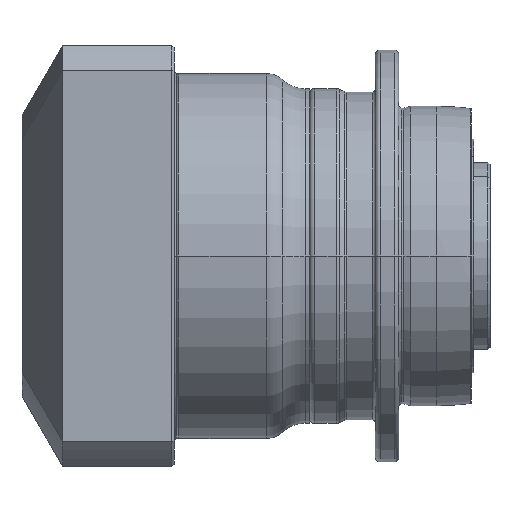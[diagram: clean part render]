
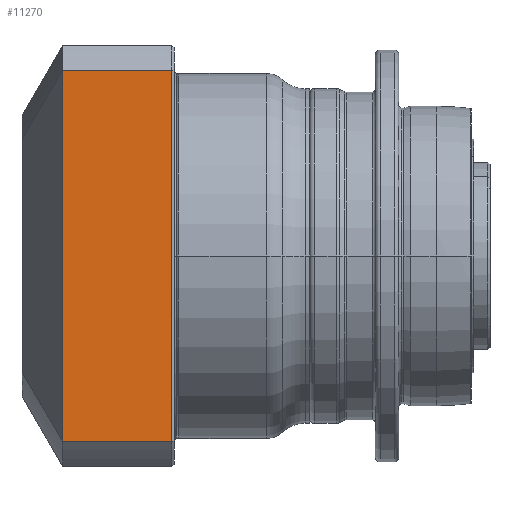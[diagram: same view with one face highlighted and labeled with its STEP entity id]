
A CAD part, front view. The second image highlights one B-rep face of the part: STEP entity #11270.
In plain terms, the highlighted planar face has unit normal (0, -1, 0) as drawn and (0, 1, 0) by its records, which use the part's own axes.
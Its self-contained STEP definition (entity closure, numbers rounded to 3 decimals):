
#9959=CARTESIAN_POINT('',(-39.686,45.,26.3));
#9961=DIRECTION('',(-1.,0.,0.));
#9962=VECTOR('',#9961,79.373);
#9963=CARTESIAN_POINT('',(39.686,45.,26.3));
#9964=LINE('',#9963,#9962);
#9965=DIRECTION('',(0.,0.,1.));
#9966=VECTOR('',#9965,23.3);
#9967=CARTESIAN_POINT('',(-39.686,45.,3.));
#9968=LINE('',#9967,#9966);
#9969=DIRECTION('',(0.,0.,1.));
#9970=VECTOR('',#9969,23.3);
#9971=CARTESIAN_POINT('',(39.686,45.,3.));
#9972=LINE('',#9971,#9970);
#9993=DIRECTION('',(-1.,0.,0.));
#9994=VECTOR('',#9993,79.373);
#9995=CARTESIAN_POINT('',(39.686,45.,3.));
#9996=LINE('',#9995,#9994);
#10355=CARTESIAN_POINT('',(39.686,45.,3.));
#10356=CARTESIAN_POINT('',(-39.686,45.,3.));
#10357=VERTEX_POINT('',#10355);
#10358=VERTEX_POINT('',#10356);
#10432=CARTESIAN_POINT('',(39.686,45.,26.3));
#10434=VERTEX_POINT('',#10432);
#10436=VERTEX_POINT('',#9959);
#11256=CARTESIAN_POINT('',(45.,45.,0.));
#11257=DIRECTION('',(0.,1.,0.));
#11258=DIRECTION('',(-1.,0.,0.));
#11259=AXIS2_PLACEMENT_3D('',#11256,#11257,#11258);
#11260=PLANE('',#11259);
#11261=ORIENTED_EDGE('',*,*,#11251,.T.);
#11263=ORIENTED_EDGE('',*,*,#11262,.F.);
#11265=ORIENTED_EDGE('',*,*,#11264,.F.);
#11267=ORIENTED_EDGE('',*,*,#11266,.T.);
#11268=EDGE_LOOP('',(#11261,#11263,#11265,#11267));
#11269=FACE_OUTER_BOUND('',#11268,.F.);
#11270=ADVANCED_FACE('',(#11269),#11260,.T.);
#11251=EDGE_CURVE('',#10434,#10436,#9964,.T.);
#11262=EDGE_CURVE('',#10358,#10436,#9968,.T.);
#11264=EDGE_CURVE('',#10357,#10358,#9996,.T.);
#11266=EDGE_CURVE('',#10357,#10434,#9972,.T.);
